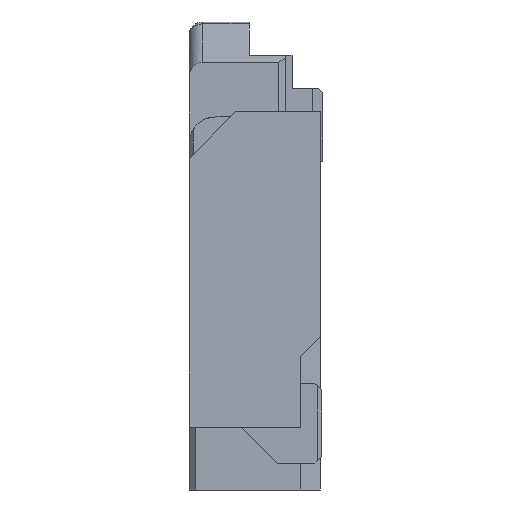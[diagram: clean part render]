
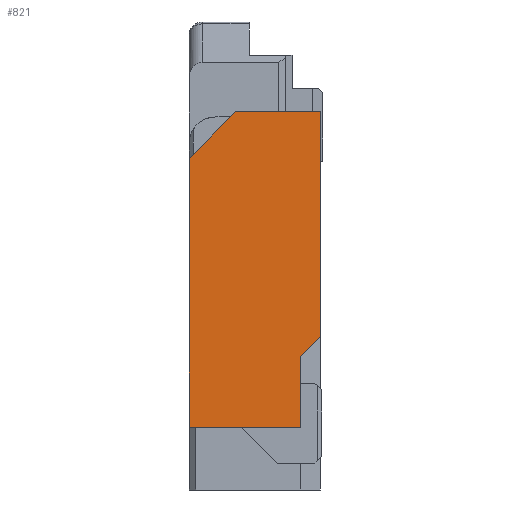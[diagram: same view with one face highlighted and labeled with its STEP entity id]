
A CAD part, left-side view. The second image highlights one B-rep face of the part: STEP entity #821.
In plain terms, the highlighted planar face has unit normal (-1, 0, 0).
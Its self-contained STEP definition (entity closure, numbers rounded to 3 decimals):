
#30 = VERTEX_POINT ( 'NONE', #3774 ) ;
#622 = EDGE_CURVE ( 'NONE', #5769, #6032, #4118, .T. ) ;
#625 = EDGE_CURVE ( 'NONE', #5767, #5871, #4237, .T. ) ;
#693 = EDGE_CURVE ( 'NONE', #6004, #6032, #4424, .T. ) ;
#711 = EDGE_CURVE ( 'NONE', #5871, #5769, #4495, .T. ) ;
#733 = EDGE_CURVE ( 'NONE', #30, #5767, #4563, .T. ) ;
#734 = EDGE_CURVE ( 'NONE', #5817, #30, #4566, .T. ) ;
#735 = EDGE_CURVE ( 'NONE', #6004, #5817, #4569, .T. ) ;
#821 = ADVANCED_FACE ( 'NONE', ( #4905 ), #4906, .F. ) ;
#2016 = VECTOR ( 'NONE', #4230, 1000. ) ;
#2051 = VECTOR ( 'NONE', #4239, 1000. ) ;
#2121 = VECTOR ( 'NONE', #4444, 1000. ) ;
#2143 = VECTOR ( 'NONE', #4497, 1000. ) ;
#2165 = VECTOR ( 'NONE', #4565, 1000. ) ;
#2166 = VECTOR ( 'NONE', #4568, 1000. ) ;
#2167 = VECTOR ( 'NONE', #4571, 1000. ) ;
#2256 = AXIS2_PLACEMENT_3D ( 'NONE', #4897, #4908, #4909 ) ;
#3462 = ORIENTED_EDGE ( 'NONE', *, *, #622, .F. ) ;
#3463 = ORIENTED_EDGE ( 'NONE', *, *, #711, .F. ) ;
#3464 = ORIENTED_EDGE ( 'NONE', *, *, #625, .F. ) ;
#3465 = ORIENTED_EDGE ( 'NONE', *, *, #733, .F. ) ;
#3466 = ORIENTED_EDGE ( 'NONE', *, *, #734, .F. ) ;
#3467 = ORIENTED_EDGE ( 'NONE', *, *, #735, .F. ) ;
#3468 = ORIENTED_EDGE ( 'NONE', *, *, #693, .T. ) ;
#3774 = CARTESIAN_POINT ( 'NONE',  ( 1.15, 1., -0.52 ) ) ;
#4118 = LINE ( 'NONE', #4229, #2016 ) ;
#4229 = CARTESIAN_POINT ( 'NONE',  ( 1.15, 0.17, -2. ) ) ;
#4230 = DIRECTION ( 'NONE',  ( 0., 0.707, -0.707 ) ) ;
#4237 = LINE ( 'NONE', #4238, #2051 ) ;
#4238 = CARTESIAN_POINT ( 'NONE',  ( 1.15, 0.02, -0.17 ) ) ;
#4239 = DIRECTION ( 'NONE',  ( 0., -1., 0. ) ) ;
#4424 = LINE ( 'NONE', #4442, #2121 ) ;
#4442 = CARTESIAN_POINT ( 'NONE',  ( 1.15, 0.17, -3. ) ) ;
#4444 = DIRECTION ( 'NONE',  ( 0., 0., 1. ) ) ;
#4495 = LINE ( 'NONE', #4496, #2143 ) ;
#4496 = CARTESIAN_POINT ( 'NONE',  ( 1.15, 0.02, -0.17 ) ) ;
#4497 = DIRECTION ( 'NONE',  ( 0., 0., -1. ) ) ;
#4563 = LINE ( 'NONE', #4564, #2165 ) ;
#4564 = CARTESIAN_POINT ( 'NONE',  ( 1.15, 1., -0.52 ) ) ;
#4565 = DIRECTION ( 'NONE',  ( 0., -0.707, 0.707 ) ) ;
#4566 = LINE ( 'NONE', #4567, #2166 ) ;
#4567 = CARTESIAN_POINT ( 'NONE',  ( 1.15, 1., -1.2 ) ) ;
#4568 = DIRECTION ( 'NONE',  ( 0., 0., 1. ) ) ;
#4569 = LINE ( 'NONE', #4570, #2167 ) ;
#4570 = CARTESIAN_POINT ( 'NONE',  ( 1.15, 0.17, -2.53 ) ) ;
#4571 = DIRECTION ( 'NONE',  ( 0., 1., 0. ) ) ;
#4897 = CARTESIAN_POINT ( 'NONE',  ( 1.15, 0.53, -3. ) ) ;
#4905 = FACE_OUTER_BOUND ( 'NONE', #6122, .T. ) ;
#4906 = PLANE ( 'NONE',  #2256 ) ;
#4908 = DIRECTION ( 'NONE',  ( 1., 0., 0. ) ) ;
#4909 = DIRECTION ( 'NONE',  ( 0., 0., 1. ) ) ;
#5767 = VERTEX_POINT ( 'NONE', #6645 ) ;
#5769 = VERTEX_POINT ( 'NONE', #6647 ) ;
#5817 = VERTEX_POINT ( 'NONE', #6695 ) ;
#5871 = VERTEX_POINT ( 'NONE', #6749 ) ;
#6004 = VERTEX_POINT ( 'NONE', #6882 ) ;
#6032 = VERTEX_POINT ( 'NONE', #6910 ) ;
#6122 = EDGE_LOOP ( 'NONE', ( #3462, #3463, #3464, #3465, #3466, #3467, #3468 ) ) ;
#6645 = CARTESIAN_POINT ( 'NONE',  ( 1.15, 0.65, -0.17 ) ) ;
#6647 = CARTESIAN_POINT ( 'NONE',  ( 1.15, 0.02, -1.85 ) ) ;
#6695 = CARTESIAN_POINT ( 'NONE',  ( 1.15, 1., -2.53 ) ) ;
#6749 = CARTESIAN_POINT ( 'NONE',  ( 1.15, 0.02, -0.17 ) ) ;
#6882 = CARTESIAN_POINT ( 'NONE',  ( 1.15, 0.17, -2.53 ) ) ;
#6910 = CARTESIAN_POINT ( 'NONE',  ( 1.15, 0.17, -2. ) ) ;
